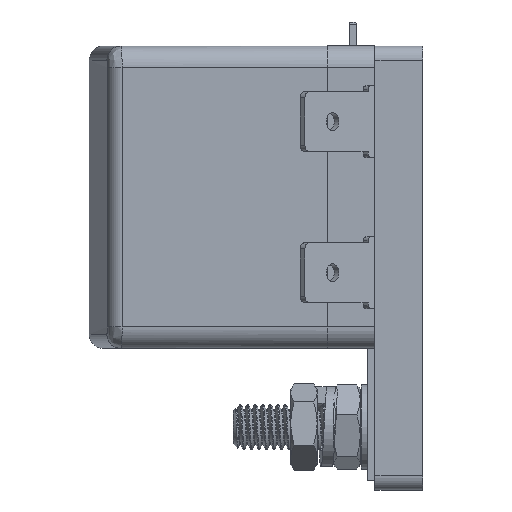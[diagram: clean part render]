
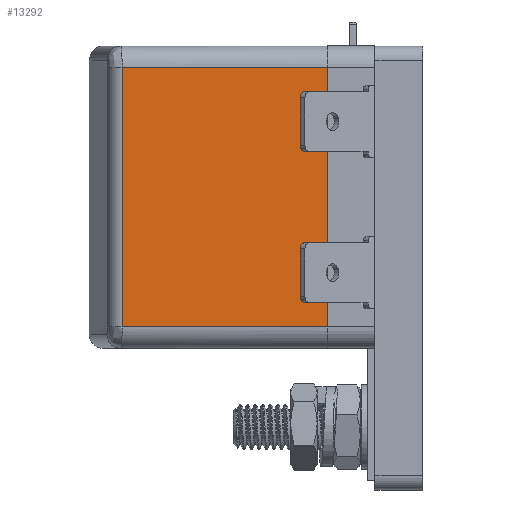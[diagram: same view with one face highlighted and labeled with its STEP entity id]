
A CAD part, left-side view. The second image highlights one B-rep face of the part: STEP entity #13292.
In plain terms, the highlighted planar face has unit normal (-1, 0, 0) as drawn and (1, 0, 0) by its records, which use the part's own axes.
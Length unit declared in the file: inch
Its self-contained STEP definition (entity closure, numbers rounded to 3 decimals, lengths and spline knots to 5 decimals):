
#1175=PLANE('',#14411);
#1904=FACE_OUTER_BOUND('',#2696,.T.);
#2696=EDGE_LOOP('',(#12430,#12431,#12432,#12433));
#3936=LINE('',#27585,#5188);
#3949=LINE('',#27697,#5201);
#3950=LINE('',#27701,#5202);
#3951=LINE('',#27702,#5203);
#5188=VECTOR('',#17489,0.3937);
#5201=VECTOR('',#17534,0.3937);
#5202=VECTOR('',#17539,0.3937);
#5203=VECTOR('',#17540,0.3937);
#6728=VERTEX_POINT('',#27569);
#6730=VERTEX_POINT('',#27583);
#6743=VERTEX_POINT('',#27696);
#6744=VERTEX_POINT('',#27700);
#8619=EDGE_CURVE('',#6730,#6728,#3936,.T.);
#8643=EDGE_CURVE('',#6743,#6728,#3949,.T.);
#8645=EDGE_CURVE('',#6744,#6730,#3950,.T.);
#8646=EDGE_CURVE('',#6743,#6744,#3951,.T.);
#12430=ORIENTED_EDGE('',*,*,#8619,.F.);
#12431=ORIENTED_EDGE('',*,*,#8645,.F.);
#12432=ORIENTED_EDGE('',*,*,#8646,.F.);
#12433=ORIENTED_EDGE('',*,*,#8643,.T.);
#13292=ADVANCED_FACE('',(#1904),#1175,.T.);
#14411=AXIS2_PLACEMENT_3D('',#27699,#17537,#17538);
#17489=DIRECTION('',(0.,1.,0.));
#17534=DIRECTION('',(0.,0.,1.));
#17537=DIRECTION('center_axis',(1.,0.,0.));
#17538=DIRECTION('ref_axis',(0.,1.,0.));
#17539=DIRECTION('',(0.,0.,1.));
#17540=DIRECTION('',(0.,-1.,0.));
#27569=CARTESIAN_POINT('',(1.25,0.54,0.85631));
#27583=CARTESIAN_POINT('',(1.25,-0.54,0.85631));
#27585=CARTESIAN_POINT('',(1.25,-0.63,0.85631));
#27696=CARTESIAN_POINT('',(1.25,0.54,0.));
#27697=CARTESIAN_POINT('',(1.25,0.54,0.));
#27699=CARTESIAN_POINT('Origin',(1.25,-0.54,0.));
#27700=CARTESIAN_POINT('',(1.25,-0.54,0.));
#27701=CARTESIAN_POINT('',(1.25,-0.54,0.));
#27702=CARTESIAN_POINT('',(1.25,0.54,0.));
